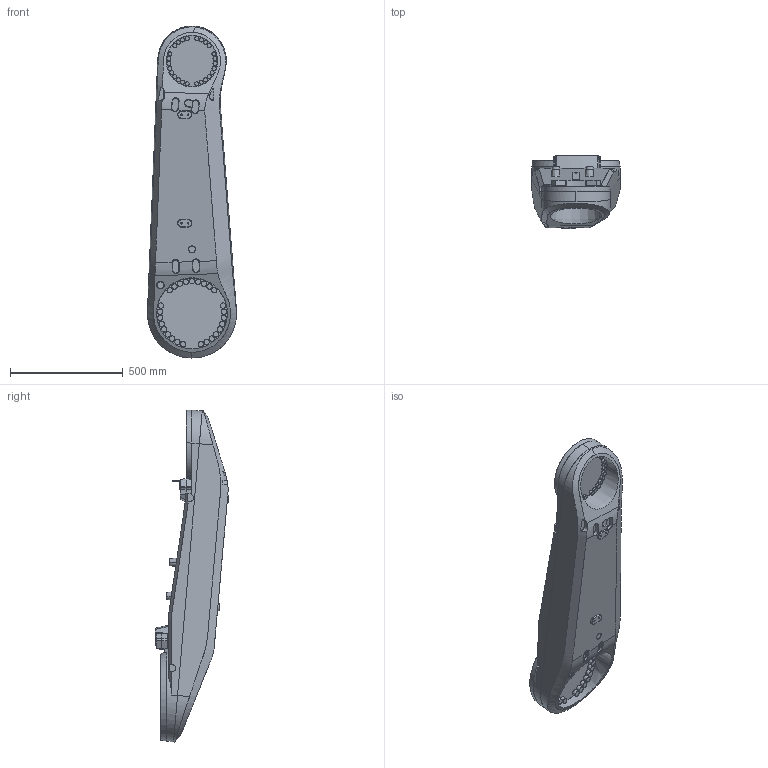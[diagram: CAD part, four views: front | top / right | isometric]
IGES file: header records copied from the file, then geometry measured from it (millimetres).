
Start section: SolidWorks IGES file using analytic representation for surfaces
Global section: file name: C:\Users\SEALDUN\OneDrive - ABB\Documents\R&D Robotics\Work Items\WI 632927 light weight hole removal\IGES\IRB5720-MH3_180kg-260_OC_03_IGES_J\IRB5720-MH3_180kg-260_OmniCore_rev00_LINK02_CAD.igs; native system: SolidWorks 2024; preprocessor: SolidWorks 2024; author: SEALDUN; date: 250708.132507; units: millimetre
Bounding box: 395.82 x 327 x 1474.4 mm (x, y, z)
Surface area: 1811602.9 mm2 (no closed solid volume)
Topology: 0 solids, 0 shells, 528 faces, 11223 edges, 11213 vertices
Faces by surface type: bspline 309, revolution 219
